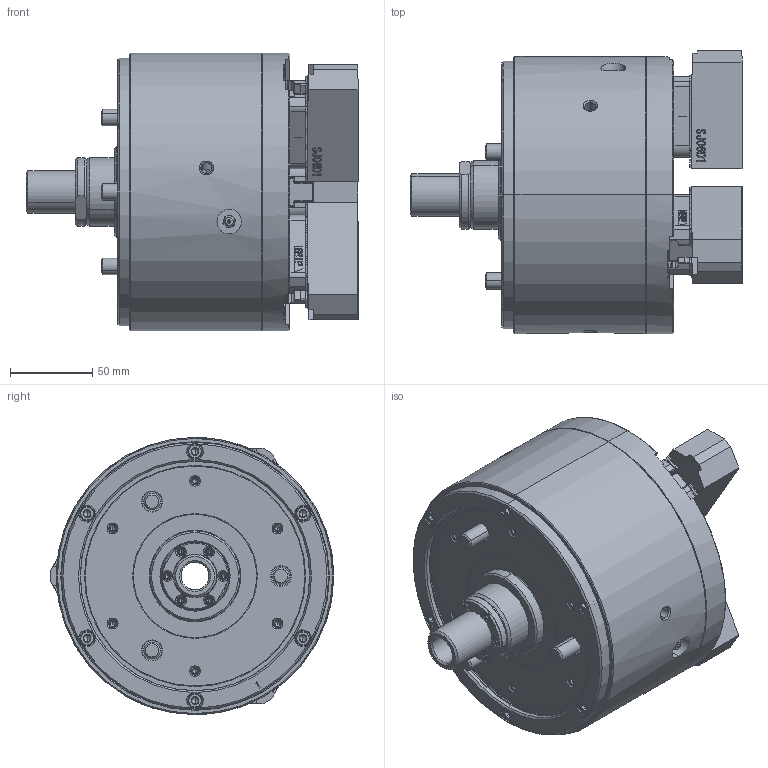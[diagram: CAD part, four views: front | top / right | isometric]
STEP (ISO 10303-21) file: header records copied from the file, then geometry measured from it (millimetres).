
FILE_DESCRIPTION (( 'STEP AP214' ), '1' );
FILE_NAME ('DL206_OC_ID.STEP', '2022-09-07T06:07:01', ( '' ), ( '' ), 'SwSTEP 2.0', 'SolidWorks 2020', '' );
FILE_SCHEMA (( 'AUTOMOTIVE_DESIGN' ));
Length unit declared in the file: millimetre
Products named in the file (5): 61P385747; 61P456464; DL206_OC_ID; 0030110025; 結合DL206_OC_ID^DL206
Assembly tree (13 placements, depth 2):
  DL206_OC_ID
    61P385747  x3
    61P456464  x3
    0030110025  x6
    結合DL206_OC_ID^DL206
Bounding box: 202.4 x 172.69 x 169 mm (x, y, z)
Volume: 2464097 mm3; surface area: 245563.6 mm2
Topology: 13 solids, 51 shells, 5971 faces, 16380 edges, 10680 vertices
Faces by surface type: plane 3540, bspline 1071, cylinder 707, cone 621, torus 28, sphere 4
Entity records: 192297 total; most frequent: CARTESIAN_POINT 73123, ORIENTED_EDGE 27238, DIRECTION 20333, EDGE_CURVE 13619, LINE 9013, VECTOR 9013, VERTEX_POINT 8958, AXIS2_PLACEMENT_3D 5660
